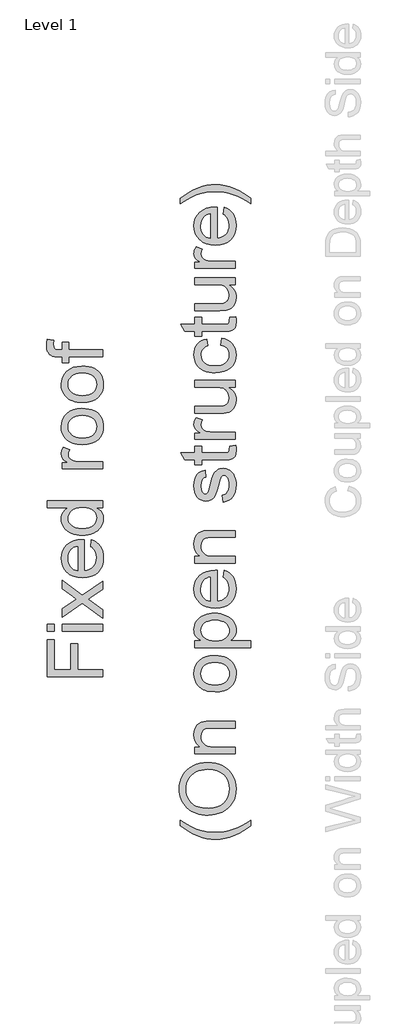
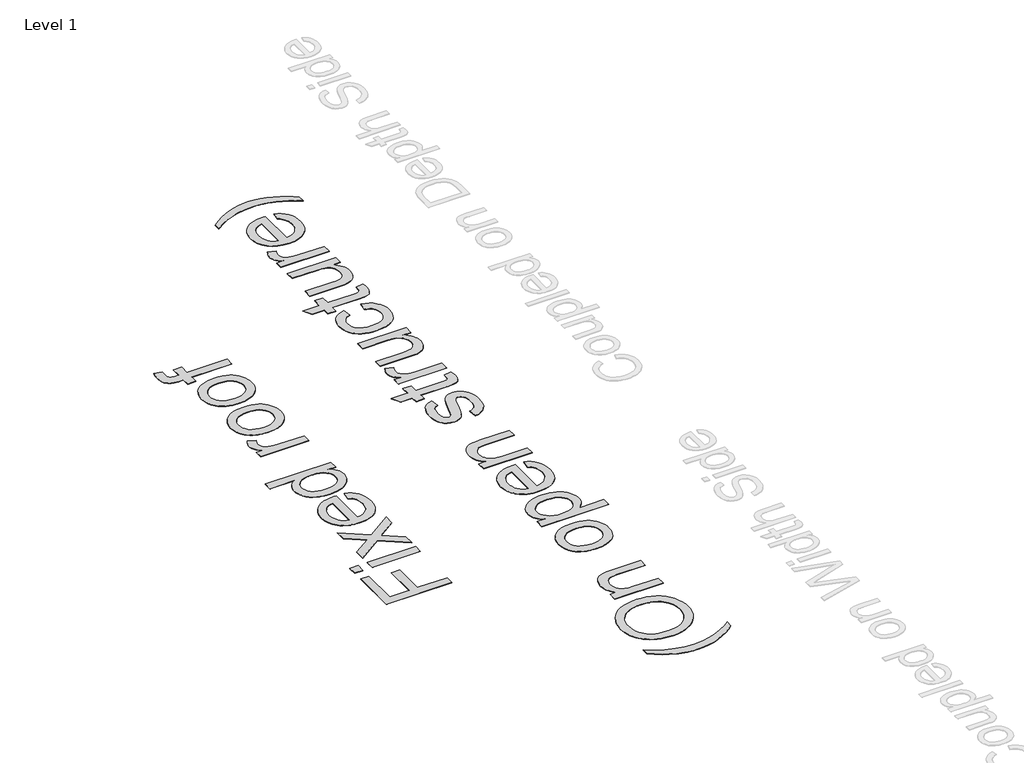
# One storey, part 68 of 80: 1 proxy.
"""IFC4 building model written with IfcOpenShell, lengths in millimetres."""

from ifc_helpers import new_model, si_unit, origin, origin_with_axes, place, context, project, spatial, polyline, outline, extrude, element, save

model = new_model("IFC4")

# Units and contexts
model_context = context("Model", 3, world=origin())
ifc_project = project(units=[si_unit("LENGTHUNIT", "METRE", prefix="MILLI")], contexts=[model_context])

# Site, building, storey
site = spatial("IfcSite", under=ifc_project)
building = spatial("IfcBuilding", under=site)
storey = spatial("IfcBuildingStorey", under=building, Name="Level 1", Elevation=0.0)

# Proxy
placement = place(None, origin())
element("IfcBuildingElementProxy", 1, Name="800mm Arial", ObjectType="800mm Arial", at=placement, inside=storey, context=model_context, shape_type="SweptSolid", body=[
    extrude(outline(polyline([(216682.3499117, 49671.7954524), (215882.9612133, 49671.7954524), (215882.9612133, 50208.8847341), (215982.8848006, 50208.8847341), (215982.8848006, 49771.7190397), (216220.2033204, 49771.7190397), (216220.2033204, 50146.432492), (216320.1269077, 50146.432492), (216320.1269077, 49771.7190397), (216682.3499117, 49771.7190397), (216682.3499117, 49671.7954524)])), origin_with_axes(), (0.0, 0.0, 1.0), 5.0),
    extrude(outline(polyline([(215982.8848006, 50333.7892182), (215882.9612133, 50333.7892182), (215882.9612133, 50433.7128055), (215982.8848006, 50433.7128055), (215982.8848006, 50333.7892182)])), origin_with_axes(), (0.0, 0.0, 1.0), 5.0),
    extrude(outline(polyline([(216682.3499117, 50333.7892182), (216095.2988363, 50333.7892182), (216095.2988363, 50433.7128055), (216682.3499117, 50433.7128055), (216682.3499117, 50333.7892182)])), origin_with_axes(), (0.0, 0.0, 1.0), 5.0),
    extrude(outline(polyline([(216682.3499117, 50521.1459444), (216387.2630679, 50734.6545469), (216095.2988363, 50533.6363928), (216095.2988363, 50653.8569588), (216235.8163809, 50750.8530972), (216302.1718881, 50796.1309727), (216247.9165028, 50835.3587872), (216095.2988363, 50945.8211904), (216095.2988363, 51066.0417563), (216387.2630679, 50854.8751129), (216682.3499117, 51058.2352261), (216682.3499117, 50938.0146601), (216504.9465116, 50815.6472983), (216472.549411, 50793.2035238), (216682.3499117, 50641.3665103), (216682.3499117, 50521.1459444)])), origin_with_axes(), (0.0, 0.0, 1.0), 5.0),
    extrude(outline(polyline([(216507.4836339, 51556.682183), (216519.9740823, 51654.6541377), (216559.2140945, 51639.6326658), (216593.794584, 51619.3539837), (216623.7155508, 51593.8180914), (216648.9769948, 51563.0249888), (216669.0422171, 51527.2918164), (216683.3745187, 51486.9357142), (216691.9738997, 51441.9566825), (216694.8403601, 51392.3547211), (216689.8941913, 51330.3537941), (216675.0556849, 51275.1103948), (216650.324841, 51226.6245233), (216615.7016596, 51184.8961795), (216572.1497591, 51151.3402971), (216520.6327583, 51127.3718097), (216461.150657, 51112.9907172), (216393.7034554, 51108.1970197), (216323.9691843, 51113.039508), (216262.5049563, 51127.5669729), (216209.3107712, 51151.7794144), (216185.8149448, 51167.5175014), (216164.3866291, 51185.6768325), (216128.6961486, 51227.295397), (216103.2029482, 51274.6712775), (216087.907028, 51327.804474), (216082.8083879, 51386.6949867), (216087.8948303, 51443.6887564), (216103.1541574, 51495.2301526), (216128.5863692, 51541.3191754), (216164.1914658, 51581.9558247), (216209.0180263, 51615.1274795), (216262.1146297, 51638.8215186), (216323.4812762, 51653.037942), (216393.1179656, 51657.7767498), (216420.050495, 51657.1912601), (216420.050495, 51208.120607), (216459.9247878, 51213.9084173), (216494.846813, 51225.4169506), (216524.8165706, 51242.6462069), (216549.8340605, 51265.596186), (216569.5577471, 51292.998327), (216583.6460947, 51323.5840686), (216592.0991033, 51357.3534108), (216594.9167728, 51394.3063537), (216589.6961557, 51447.488341), (216574.0343043, 51492.2783084), (216562.0439618, 51511.5262845), (216546.9554025, 51528.6762557), (216528.7686265, 51543.7282219), (216507.4836339, 51556.682183)]), holes=[polyline([(216320.1269077, 51208.120607), (216320.1269077, 51557.8531625), (216291.8526309, 51552.7179294), (216267.3352469, 51544.338107), (216246.5747554, 51532.7136956), (216229.5711567, 51517.844695), (216209.0790148, 51490.5950253), (216194.4417706, 51459.5884629), (216185.659424, 51424.8250079), (216182.7319752, 51386.3046601), (216185.0678354, 51351.1691751), (216192.0754161, 51318.9489413), (216203.7547172, 51289.6439585), (216220.1057388, 51263.254227), (216240.3722232, 51241.1092962), (216263.7979128, 51224.538716), (216290.3828077, 51213.5424862), (216320.1269077, 51208.120607)])]), origin_with_axes(), (0.0, 0.0, 1.0), 5.0),
    extrude(outline(polyline([(216682.3499117, 52119.9233411), (216588.0860588, 52119.9233411), (216634.7910656, 52090.0267697), (216653.1394611, 52072.7090801), (216668.1517847, 52053.811788), (216679.8280364, 52033.3348932), (216688.1682162, 52011.2783958), (216693.1723241, 51987.6422957), (216694.8403601, 51962.4265931), (216692.4252148, 51929.4440028), (216685.1797789, 51897.8275552), (216673.1040524, 51867.5772505), (216656.1980353, 51838.6930885), (216634.9679323, 51812.0776995), (216609.9199481, 51788.6337133), (216581.0540827, 51768.36113), (216548.3703361, 51751.2599497), (216512.4907912, 51737.6839056), (216474.0375308, 51727.9867313), (216433.010555, 51722.1684268), (216389.4098637, 51720.2289919), (216346.6081221, 51722.0159555), (216305.8311992, 51727.3768462), (216267.0790951, 51736.311664), (216230.3518098, 51748.820409), (216196.7227411, 51764.8969822), (216167.2652871, 51784.5352849), (216141.9794477, 51807.735317), (216120.8652229, 51834.4970785), (216104.2153576, 51863.8752475), (216092.3225966, 51894.9245018), (216085.1869401, 51927.6448415), (216082.8083879, 51962.0362666), (216084.5099675, 51987.1879313), (216089.6147065, 52010.9246624), (216098.1226047, 52033.2464598), (216110.0336622, 52054.1533236), (216141.3329694, 52090.795225), (216180.7803426, 52119.9233411), (215882.9612133, 52119.9233411), (215882.9612133, 52219.8469284), (216682.3499117, 52219.8469284), (216682.3499117, 52119.9233411)]), holes=[polyline([(216389.0195372, 51820.1525792), (216437.4749145, 51822.9702487), (216479.4045204, 51831.4232572), (216514.8083549, 51845.5116048), (216543.686418, 51865.2352914), (216566.0996982, 51888.7890569), (216582.1091841, 51914.3676412), (216591.7148756, 51941.9710443), (216594.9167728, 51971.5992662), (216591.861248, 52001.3677616), (216582.6946738, 52028.8064957), (216567.4170502, 52053.9154684), (216546.028377, 52076.6946798), (216518.3578866, 52095.6072191), (216484.234811, 52109.1161757), (216443.6591502, 52117.2215497), (216396.6309042, 52119.9233411), (216345.0712114, 52117.1727589), (216300.8545361, 52108.9210125), (216263.9808784, 52095.1681018), (216234.4502381, 52075.9140267), (216211.8234981, 52052.6347096), (216195.6615409, 52026.8060723), (216185.9643666, 51998.4281151), (216182.7319752, 51967.5008378), (216185.8362907, 51937.2871262), (216195.1492374, 51909.6837231), (216210.6708151, 51884.6906285), (216232.4010239, 51862.3078426), (216260.8155743, 51843.8649148), (216296.3901767, 51830.691395), (216339.124831, 51822.7872832), (216389.0195372, 51820.1525792)])]), origin_with_axes(), (0.0, 0.0, 1.0), 5.0),
    extrude(outline(polyline([(216682.3499117, 52681.9935196), (216095.2988363, 52681.9935196), (216095.2988363, 52769.4266585), (216182.1464854, 52769.4266585), (216131.7943653, 52801.7261774), (216114.3760446, 52816.924516), (216102.1295503, 52831.488574), (216087.6386785, 52861.3485522), (216082.8083879, 52893.9408161), (216084.7356251, 52918.7265496), (216090.5173365, 52943.7074465), (216100.1535223, 52968.8835065), (216113.6441824, 52994.2547299), (216203.2241171, 52960.881813), (216187.8550107, 52925.7524269), (216182.7319752, 52890.6230407), (216187.6598474, 52860.7874579), (216202.4434641, 52834.123278), (216225.9606365, 52812.5821335), (216257.0891759, 52798.1156572), (216312.9058672, 52785.9667445), (216373.7968032, 52781.9171069), (216682.3499117, 52781.9171069), (216682.3499117, 52681.9935196)])), origin_with_axes(), (0.0, 0.0, 1.0), 5.0),
    extrude(outline(polyline([(216388.824374, 53031.7260751), (216312.7960879, 53037.1296578), (216278.7248525, 53043.8841361), (216247.2822223, 53053.3404058), (216218.4681971, 53065.4984668), (216192.282777, 53080.3583191), (216168.7259621, 53097.9199627), (216147.7977523, 53118.1833977), (216119.3649054, 53156.2646281), (216099.055729, 53198.2979145), (216086.8702232, 53244.2832568), (216082.8083879, 53294.220655), (216087.7545567, 53349.3481761), (216102.593063, 53399.1940916), (216127.3239069, 53443.7584014), (216161.9470884, 53483.0411056), (216205.2916279, 53515.1027693), (216256.1865458, 53538.0039577), (216314.6318423, 53551.7446707), (216380.6275172, 53556.3249084), (216434.1144472, 53554.3000896), (216481.5757116, 53548.2256333), (216523.0113105, 53538.1015393), (216558.4212438, 53523.9278078), (216589.0069854, 53505.8813055), (216615.9700091, 53484.1388989), (216639.3103148, 53458.7005882), (216659.0279025, 53429.5663733), (216674.6958527, 53397.8706407), (216685.8872457, 53364.7477768), (216692.6020815, 53330.1977816), (216694.8403601, 53294.220655), (216689.9124878, 53238.2880855), (216675.1288712, 53187.9786573), (216650.48951, 53143.2923704), (216615.9944045, 53104.2292249), (216572.2290442, 53072.5090969), (216519.778919, 53049.8518626), (216458.644029, 53036.257522), (216388.824374, 53031.7260751)]), holes=[polyline([(216388.6292107, 53131.6496624), (216437.0967857, 53134.5405181), (216479.0629847, 53143.2130853), (216514.5278077, 53157.667364), (216543.4912547, 53177.9033542), (216565.9899189, 53202.5183199), (216582.0603933, 53230.1095253), (216591.7026779, 53260.6769703), (216594.9167728, 53294.220655), (216591.6843813, 53327.5935719), (216581.987207, 53358.0390399), (216565.8252499, 53385.557059), (216543.1985098, 53410.1476293), (216513.9484168, 53430.3836195), (216477.9164005, 53444.8378982), (216435.1024612, 53453.5104654), (216385.5065986, 53456.4013211), (216338.5759343, 53453.4921688), (216297.7075286, 53444.7647119), (216262.9013816, 53430.2189505), (216234.1574933, 53409.8548844), (216211.6588291, 53385.1728314), (216195.5883547, 53357.6731088), (216185.9460701, 53327.3557166), (216182.7319752, 53294.220655), (216185.9338724, 53260.6769703), (216195.5395639, 53230.1095253), (216211.5490498, 53202.5183199), (216233.96233, 53177.9033542), (216262.8403931, 53157.667364), (216298.2442276, 53143.2130853), (216340.1738335, 53134.5405181), (216388.6292107, 53131.6496624)])]), origin_with_axes(), (0.0, 0.0, 1.0), 5.0),
    extrude(outline(polyline([(216388.824374, 53643.7580473), (216312.7960879, 53649.1616299), (216278.7248525, 53655.9161083), (216247.2822223, 53665.3723779), (216218.4681971, 53677.5304389), (216192.282777, 53692.3902912), (216168.7259621, 53709.9519349), (216147.7977523, 53730.2153699), (216119.3649054, 53768.2966003), (216099.055729, 53810.3298866), (216086.8702232, 53856.3152289), (216082.8083879, 53906.2526272), (216087.7545567, 53961.3801483), (216102.593063, 54011.2260637), (216127.3239069, 54055.7903736), (216161.9470884, 54095.0730778), (216205.2916279, 54127.1347415), (216256.1865458, 54150.0359299), (216314.6318423, 54163.7766429), (216380.6275172, 54168.3568806), (216434.1144472, 54166.3320618), (216481.5757116, 54160.2576054), (216523.0113105, 54150.1335115), (216558.4212438, 54135.95978), (216589.0069854, 54117.9132776), (216615.9700091, 54096.1708711), (216639.3103148, 54070.7325604), (216659.0279025, 54041.5983455), (216674.6958527, 54009.9026129), (216685.8872457, 53976.779749), (216692.6020815, 53942.2297537), (216694.8403601, 53906.2526272), (216689.9124878, 53850.3200577), (216675.1288712, 53800.0106295), (216650.48951, 53755.3243426), (216615.9944045, 53716.261197), (216572.2290442, 53684.541069), (216519.778919, 53661.8838347), (216458.644029, 53648.2894941), (216388.824374, 53643.7580473)]), holes=[polyline([(216388.6292107, 53743.6816346), (216437.0967857, 53746.5724903), (216479.0629847, 53755.2450575), (216514.5278077, 53769.6993362), (216543.4912547, 53789.9353263), (216565.9899189, 53814.5502921), (216582.0603933, 53842.1414974), (216591.7026779, 53872.7089425), (216594.9167728, 53906.2526272), (216591.6843813, 53939.625544), (216581.987207, 53970.071012), (216565.8252499, 53997.5890312), (216543.1985098, 54022.1796015), (216513.9484168, 54042.4155917), (216477.9164005, 54056.8698703), (216435.1024612, 54065.5424375), (216385.5065986, 54068.4332933), (216338.5759343, 54065.524141), (216297.7075286, 54056.7966841), (216262.9013816, 54042.2509227), (216234.1574933, 54021.8868566), (216211.6588291, 53997.2048035), (216195.5883547, 53969.7050809), (216185.9460701, 53939.3876888), (216182.7319752, 53906.2526272), (216185.9338724, 53872.7089425), (216195.5395639, 53842.1414974), (216211.5490498, 53814.5502921), (216233.96233, 53789.9353263), (216262.8403931, 53769.6993362), (216298.2442276, 53755.2450575), (216340.1738335, 53746.5724903), (216388.6292107, 53743.6816346)])]), origin_with_axes(), (0.0, 0.0, 1.0), 5.0),
    extrude(outline(polyline([(216682.3499117, 54305.7518131), (216195.2224236, 54305.7518131), (216195.2224236, 54218.3186742), (216095.2988363, 54218.3186742), (216095.2988363, 54305.7518131), (216036.1643696, 54305.7518131), (215987.2271831, 54308.3865171), (215952.8296591, 54316.2906289), (215935.35035, 54324.9753939), (215919.6031147, 54336.3924444), (215893.3048659, 54367.4234021), (215883.3149467, 54387.4032405), (215876.1792901, 54410.8472267), (215871.8978962, 54437.7553607), (215870.4707649, 54468.1276424), (215873.2030505, 54511.5026762), (215881.3999073, 54559.2688832), (215975.0782703, 54544.631639), (215970.3943522, 54487.0584783), (215974.5415714, 54449.0748295), (215979.7255954, 54434.9681854), (215986.983229, 54424.1183281), (215997.0707298, 54416.0495472), (216010.7443555, 54410.2861323), (216048.8499813, 54405.6754004), (216095.2988363, 54405.6754004), (216095.2988363, 54518.0894361), (216195.2224236, 54518.0894361), (216195.2224236, 54405.6754004), (216682.3499117, 54405.6754004), (216682.3499117, 54305.7518131)])), origin_with_axes(), (0.0, 0.0, 1.0), 5.0),
    extrude(outline(polyline([(218828.7142788, 47517.1931014), (218776.5203054, 47476.8552958), (218720.0571358, 47439.7620794), (218659.3247699, 47405.9134521), (218594.3232078, 47375.309414), (218526.5771624, 47349.9503883), (218457.6113467, 47331.8367986), (218387.4257606, 47320.9686448), (218316.0204042, 47317.3459268), (218253.2632195, 47320.053817), (218191.8477823, 47328.1774875), (218131.7740924, 47341.7169385), (218073.0421499, 47360.6721697), (218005.686431, 47389.4831455), (217938.4770846, 47425.173626), (217871.4141106, 47467.7436113), (217804.4975091, 47517.1931014), (217804.4975091, 47592.1357919), (217899.4932241, 47533.3428609), (217962.77491, 47498.652592), (218037.9127637, 47466.7433996), (218116.1732296, 47442.4455742), (218216.1456077, 47423.5635291), (218316.6058939, 47417.2695141), (218380.662134, 47420.0017997), (218444.7061764, 47428.1986565), (218508.738021, 47441.8600844), (218572.757668, 47460.9860835), (218636.7651173, 47485.5766539), (218700.7603688, 47515.6317953), (218764.7434227, 47551.151508), (218828.7142788, 47592.1357919), (218828.7142788, 47517.1931014)])), origin_with_axes(), (0.0, 0.0, 1.0), 5.0),
    extrude(outline(polyline([(218214.7306741, 47667.0784823), (218166.5040038, 47668.7434689), (218120.9669271, 47673.7384285), (218078.119444, 47682.0633611), (218037.9615546, 47693.7182668), (218000.4932588, 47708.7031456), (217965.7145566, 47727.0179975), (217933.625448, 47748.6628224), (217904.2259331, 47773.6376203), (217877.9246349, 47801.2440729), (217855.1301764, 47830.7838614), (217835.8425577, 47862.2569859), (217820.0617788, 47895.6634464), (217807.7878396, 47931.003243), (217799.0207402, 47968.2763755), (217793.7604805, 48007.4828441), (217792.0070606, 48048.6226487), (217795.3004406, 48102.4023235), (217805.1805805, 48153.4741082), (217821.6474802, 48201.8380027), (217844.7011399, 48247.494007), (217873.6462903, 48289.1613622), (217907.7876625, 48325.5593095), (217947.1252564, 48356.6878489), (217991.659072, 48382.5469804), (218040.3766999, 48402.8683545), (218092.2657307, 48417.3836217), (218147.3261644, 48426.092782), (218205.558001, 48428.9958354), (218264.558293, 48425.9403107), (218320.3627866, 48416.7737365), (218372.9714819, 48401.4961128), (218422.3843789, 48380.1074397), (218467.2963233, 48353.1139218), (218506.4021608, 48321.0217638), (218539.7018914, 48283.8309658), (218567.1955152, 48241.5415276), (218588.7122642, 48195.818436), (218604.0813707, 48148.3266773), (218613.3028345, 48099.0662516), (218616.3766558, 48048.0371589), (218612.9795954, 47993.3182609), (218602.7884141, 47941.5756025), (218585.8031119, 47892.8091838), (218562.0236889, 47847.0190048), (218532.3710716, 47805.4004403), (218497.7661867, 47769.1488654), (218458.2090342, 47738.2642801), (218413.699614, 47712.7466843), (218366.0248898, 47692.766846), (218316.971825, 47678.4955328), (218266.5404198, 47669.932745), (218214.7306741, 47667.0784823)]), holes=[polyline([(218215.7064904, 47767.0020696), (218281.9522182, 47771.9970292), (218340.7573469, 47786.981908), (218392.1218765, 47811.956706), (218436.0458069, 47846.9214231), (218471.2239838, 47889.4243211), (218496.3512531, 47937.0136614), (218511.4276147, 47989.6894441), (218516.4530685, 48047.4516691), (218511.3788238, 48106.2019082), (218496.1560898, 48159.4997737), (218470.7848665, 48207.3452658), (218435.2651538, 48249.7383844), (218413.9039255, 48268.3322587), (218390.414198, 48284.4469498), (218337.049245, 48309.2387822), (218275.170295, 48324.1138817), (218204.777348, 48329.0722481), (218159.0481575, 48326.9498477), (218116.319602, 48320.5826465), (218076.5916816, 48309.9706444), (218039.8643963, 48295.1138415), (218006.6195553, 48276.1769068), (217977.338968, 48253.3245092), (217952.0226344, 48226.5566489), (217930.6705543, 48195.8733256), (217913.7218453, 48162.2259605), (217901.6156245, 48126.5659742), (217894.3518921, 48088.8933669), (217891.9306479, 48049.2081384), (217896.5962695, 47993.4524356), (217910.5931343, 47941.7219749), (217933.9212423, 47894.0167565), (217966.5805935, 47850.3367801), (217986.8028613, 47830.8052073), (218010.1446917, 47813.8778443), (218036.6060848, 47799.5546909), (218066.1870405, 47787.8357473), (218098.887559, 47778.7210133), (218134.7076401, 47772.210489), (218215.7064904, 47767.0020696)])]), origin_with_axes(), (0.0, 0.0, 1.0), 5.0),
    extrude(outline(polyline([(218603.8862074, 48553.9003196), (218016.8351321, 48553.9003196), (218016.8351321, 48653.8239068), (218098.8036998, 48653.8239068), (218076.6648679, 48670.3091032), (218057.4778802, 48688.5385711), (218041.2427368, 48708.5123106), (218027.9594377, 48730.2303217), (218017.6279828, 48753.6926045), (218010.2483721, 48778.8991588), (218004.3446836, 48834.5450823), (218009.101788, 48883.7994091), (218023.3731011, 48928.9065168), (218045.3777583, 48966.5242345), (218073.3348948, 48993.3103914), (218107.1713244, 49011.4849697), (218146.8138608, 49023.2679513), (218184.7243234, 49027.2200072), (218243.4196728, 49028.5373592), (218603.8862074, 49028.5373592), (218603.8862074, 48928.6137719), (218256.8859375, 48928.6137719), (218205.2164653, 48925.7351139), (218168.4769823, 48917.0991398), (218142.1543381, 48901.168939), (218121.7353824, 48876.4076008), (218108.6350488, 48844.6691762), (218104.2682709, 48807.8077162), (218106.7200093, 48777.4659287), (218114.0752246, 48749.2831347), (218126.3339166, 48723.2593342), (218143.4960855, 48699.3945272), (218167.5133637, 48679.4573808), (218200.3373839, 48665.2165619), (218241.968146, 48656.6720706), (218292.4056501, 48653.8239068), (218603.8862074, 48653.8239068), (218603.8862074, 48553.9003196)])), origin_with_axes(), (0.0, 0.0, 1.0), 5.0),
    extrude(outline(polyline([(218310.3606697, 49453.2126052), (218234.3323836, 49458.6161879), (218200.2611483, 49465.3706662), (218168.818518, 49474.8269358), (218140.0044928, 49486.9849968), (218113.8190728, 49501.8448492), (218090.2622579, 49519.4064928), (218069.334048, 49539.6699278), (218040.9012011, 49577.7511582), (218020.5920247, 49619.7844446), (218008.4065189, 49665.7697869), (218004.3446836, 49715.7071851), (218009.2908524, 49770.8347062), (218024.1293588, 49820.6806216), (218048.8602027, 49865.2449315), (218083.4833841, 49904.5276357), (218126.8279236, 49936.5892994), (218177.7228416, 49959.4904878), (218236.168138, 49973.2312008), (218302.163813, 49977.8114385), (218355.6507429, 49975.7866197), (218403.1120073, 49969.7121633), (218444.5476062, 49959.5880694), (218479.9575396, 49945.4143379), (218510.5432812, 49927.3678355), (218537.5063048, 49905.625429), (218560.8466105, 49880.1871183), (218580.5641983, 49851.0529034), (218596.2321484, 49819.3571708), (218607.4235414, 49786.2343069), (218614.1383772, 49751.6843116), (218616.3766558, 49715.7071851), (218611.4487836, 49659.7746156), (218596.6651669, 49609.4651874), (218572.0258058, 49564.7789005), (218537.5307002, 49525.715755), (218493.76534, 49493.9956269), (218441.3152148, 49471.3383926), (218380.1803247, 49457.7440521), (218310.3606697, 49453.2126052)]), holes=[polyline([(218310.1655065, 49553.1361925), (218358.6330814, 49556.0270482), (218400.5992804, 49564.6996154), (218436.0641034, 49579.1538941), (218465.0275504, 49599.3898843), (218487.5262146, 49624.00485), (218503.596689, 49651.5960554), (218513.2389736, 49682.1635004), (218516.4530685, 49715.7071851), (218513.2206771, 49749.0801019), (218503.5235028, 49779.5255699), (218487.3615456, 49807.0435891), (218464.7348056, 49831.6341594), (218435.4847125, 49851.8701496), (218399.4526963, 49866.3244282), (218356.6387569, 49874.9969954), (218307.0428944, 49877.8878512), (218260.11223, 49874.9786989), (218219.2438244, 49866.251242), (218184.4376774, 49851.7054806), (218155.693789, 49831.3414145), (218133.1951248, 49806.6593614), (218117.1246504, 49779.1596388), (218107.4823658, 49748.8422467), (218104.2682709, 49715.7071851), (218107.4701681, 49682.1635004), (218117.0758596, 49651.5960554), (218133.0853455, 49624.00485), (218155.4986257, 49599.3898843), (218184.3766888, 49579.1538941), (218219.7805233, 49564.6996154), (218261.7101292, 49556.0270482), (218310.1655065, 49553.1361925)])]), origin_with_axes(), (0.0, 0.0, 1.0), 5.0),
    extrude(outline(polyline([(218828.7142788, 50090.2254742), (218016.8351321, 50090.2254742), (218016.8351321, 50190.1490615), (218114.8070868, 50190.1490615), (218066.4797854, 50222.7413253), (218047.4940599, 50240.5011816), (218031.9602844, 50259.2368543), (218019.8784591, 50279.4850421), (218011.2485838, 50301.7824442), (218006.0706587, 50326.1290604), (218004.3446836, 50352.5248908), (218006.7598289, 50387.3737298), (218014.0052648, 50420.1001684), (218026.0809913, 50450.7042065), (218042.9870084, 50479.1858443), (218064.2841988, 50504.9229987), (218089.5334451, 50527.293587), (218118.7347473, 50546.2976091), (218151.8881055, 50561.935065), (218187.8591332, 50574.1449662), (218225.513444, 50582.8663242), (218264.8510379, 50588.099139), (218305.8719148, 50589.8434106), (218349.7287579, 50587.8734815), (218391.3290257, 50581.9636942), (218430.6727185, 50572.1140486), (218467.759836, 50558.3245447), (218501.620661, 50540.7842471), (218531.285476, 50519.68222), (218556.754281, 50495.0184634), (218578.0270759, 50466.7929775), (218594.8050171, 50436.3902014), (218606.7892608, 50405.1945747), (218613.9798071, 50373.2060972), (218616.3766558, 50340.4247689), (218614.7726578, 50316.8405092), (218609.9606638, 50294.4882174), (218601.9406737, 50273.3678938), (218590.7126876, 50253.4795382), (218561.6577578, 50218.3745474), (218525.8209048, 50190.1490615), (218828.7142788, 50190.1490615), (218828.7142788, 50090.2254742)]), holes=[polyline([(218315.0445879, 50190.1490615), (218363.2011214, 50192.8508528), (218404.6245226, 50200.9562268), (218439.3147914, 50214.4651835), (218467.2719279, 50233.3777228), (218488.7886769, 50256.1447364), (218504.1577834, 50281.217116), (218513.3792472, 50308.5948616), (218516.4530685, 50338.2779731), (218513.2694679, 50368.3880043), (218503.718666, 50396.2658557), (218487.8006629, 50421.9115273), (218465.5154586, 50445.3250193), (218436.5459127, 50464.8352461), (218400.574885, 50478.7711223), (218357.6023755, 50487.1326481), (218307.6283841, 50489.9198234), (218259.8865725, 50487.1997355), (218218.5363576, 50479.0394718), (218183.5777393, 50465.4390324), (218155.0107176, 50446.3984172), (218132.8108972, 50423.5765139), (218116.9538826, 50398.6322102), (218107.4396738, 50371.565506), (218104.2682709, 50342.3764015), (218107.640936, 50313.2787797), (218117.758931, 50285.9010342), (218134.6222562, 50260.2431648), (218158.2309113, 50236.3051716), (218188.2677563, 50216.1118734), (218224.4156507, 50201.688089), (218266.6745945, 50193.0338184), (218315.0445879, 50190.1490615)])]), origin_with_axes(), (0.0, 0.0, 1.0), 5.0),
    extrude(outline(polyline([(218429.0199296, 51113.2712644), (218441.510378, 51211.2432191), (218480.7503903, 51196.2217472), (218515.3308798, 51175.9430651), (218545.2518465, 51150.4071728), (218570.5132905, 51119.6140702), (218590.5785128, 51083.8808977), (218604.9108145, 51043.5247956), (218613.5101955, 50998.5457639), (218616.3766558, 50948.9438025), (218611.430487, 50886.9428755), (218596.5919807, 50831.6994762), (218571.8611368, 50783.2136047), (218537.2379553, 50741.4852609), (218493.6860549, 50707.9293785), (218442.169054, 50683.9608911), (218382.6869528, 50669.5797986), (218315.2397511, 50664.7861011), (218245.5054801, 50669.6285894), (218184.041252, 50684.1560543), (218130.8470669, 50708.3684958), (218107.3512405, 50724.1065828), (218085.9229248, 50742.2659139), (218050.2324443, 50783.8844784), (218024.7392439, 50831.2603589), (218009.4433237, 50884.3935554), (218004.3446836, 50943.284068), (218009.431126, 51000.2778378), (218024.6904531, 51051.819234), (218050.122665, 51097.9082568), (218085.7277616, 51138.5449061), (218130.554322, 51171.7165608), (218183.6509255, 51195.4105999), (218245.0175719, 51209.6270234), (218314.6542614, 51214.3658312), (218341.5867908, 51213.7803415), (218341.5867908, 50764.7096884), (218381.4610836, 50770.4974987), (218416.3831088, 50782.006032), (218446.3528663, 50799.2352882), (218471.3703563, 50822.1852674), (218491.0940429, 50849.5874084), (218505.1823905, 50880.17315), (218513.635399, 50913.9424922), (218516.4530685, 50950.895435), (218511.2324514, 51004.0774224), (218495.5706001, 51048.8673898), (218483.5802575, 51068.1153659), (218468.4916982, 51085.2653371), (218450.3049223, 51100.3173032), (218429.0199296, 51113.2712644)]), holes=[polyline([(218241.6632035, 50764.7096884), (218241.6632035, 51114.4422439), (218213.3889267, 51109.3070107), (218188.8715426, 51100.9271884), (218168.1110512, 51089.302777), (218151.1074525, 51074.4337764), (218130.6153105, 51047.1841067), (218115.9780663, 51016.1775443), (218107.1957198, 50981.4140893), (218104.2682709, 50942.8937415), (218106.6041312, 50907.7582565), (218113.6117118, 50875.5380227), (218125.291013, 50846.2330399), (218141.6420345, 50819.8433084), (218161.9085189, 50797.6983776), (218185.3342086, 50781.1277974), (218211.9191034, 50770.1315676), (218241.6632035, 50764.7096884)])]), origin_with_axes(), (0.0, 0.0, 1.0), 5.0),
    extrude(outline(polyline([(218603.8862074, 51314.2894185), (218016.8351321, 51314.2894185), (218016.8351321, 51414.2130058), (218098.8036998, 51414.2130058), (218076.6648679, 51430.6982021), (218057.4778802, 51448.92767), (218041.2427368, 51468.9014096), (218027.9594377, 51490.6194207), (218017.6279828, 51514.0817034), (218010.2483721, 51539.2882578), (218004.3446836, 51594.9341813), (218009.101788, 51644.1885081), (218023.3731011, 51689.2956158), (218045.3777583, 51726.9133334), (218073.3348948, 51753.6994904), (218107.1713244, 51771.8740686), (218146.8138608, 51783.6570502), (218184.7243234, 51787.6091062), (218243.4196728, 51788.9264582), (218603.8862074, 51788.9264582), (218603.8862074, 51689.0028709), (218256.8859375, 51689.0028709), (218205.2164653, 51686.1242128), (218168.4769823, 51677.4882387), (218142.1543381, 51661.5580379), (218121.7353824, 51636.7966998), (218108.6350488, 51605.0582752), (218104.2682709, 51568.1968151), (218106.7200093, 51537.8550276), (218114.0752246, 51509.6722336), (218126.3339166, 51483.6484331), (218143.4960855, 51459.7836262), (218167.5133637, 51439.8464798), (218200.3373839, 51425.6056609), (218241.968146, 51417.0611696), (218292.4056501, 51414.2130058), (218603.8862074, 51414.2130058), (218603.8862074, 51314.2894185)])), origin_with_axes(), (0.0, 0.0, 1.0), 5.0),
    extrude(outline(polyline([(218429.0199296, 52201.1112557), (218416.5294812, 52301.034843), (218439.3147914, 52307.0727063), (218459.2702344, 52316.794276), (218476.3958101, 52330.1995522), (218490.6915187, 52347.2885348), (218501.9621967, 52368.1100147), (218510.0126811, 52392.7127827), (218514.8429716, 52421.0968389), (218516.4530685, 52453.2621831), (218514.9771464, 52485.3909341), (218510.54938, 52513.0797211), (218503.1697694, 52536.3285441), (218492.8383145, 52555.1374029), (218480.5186339, 52569.6526701), (218467.1743463, 52580.0207181), (218452.8054515, 52586.2415469), (218437.4119497, 52588.3151565), (218423.9212896, 52586.2293492), (218411.9431447, 52579.9719273), (218401.4775151, 52569.5428908), (218392.5244007, 52554.9422397), (218379.838789, 52517.5196852), (218364.0305652, 52452.0912035), (218337.6591302, 52360.9011719), (218315.1421695, 52301.6203328), (218290.5759946, 52263.5391024), (218275.3105686, 52248.4322466), (218258.056917, 52235.947897), (218219.6585463, 52219.1882524), (218177.4544921, 52213.6017042), (218138.7389811, 52218.0904591), (218102.9997098, 52231.5567237), (218071.6516117, 52252.7807279), (218046.1096205, 52280.5427011), (218030.0330473, 52308.1339065), (218016.5423872, 52344.0683411), (218007.3941095, 52385.6137193), (218004.3446836, 52430.0377555), (218009.2481605, 52495.0759107), (218023.9585909, 52551.6244643), (218047.036646, 52597.097503), (218061.1737844, 52614.7109869), (218077.0429967, 52628.9091138), (218116.197625, 52649.9867455), (218166.720513, 52663.257847), (218179.2109614, 52563.3342597), (218162.5184041, 52558.5710565), (218147.7652817, 52550.7218342), (218134.9515942, 52539.786593), (218124.0773415, 52525.7653328), (218115.4108731, 52508.5970651), (218109.2205386, 52488.2208014), (218104.2682709, 52437.8442858), (218109.0009799, 52380.4662884), (218114.9168661, 52358.9495394), (218123.1991068, 52342.2142901), (218143.6912487, 52320.6975411), (218155.1082992, 52315.3183539), (218167.3060028, 52313.5252914), (218182.6751092, 52316.5015311), (218196.385328, 52325.4302501), (218208.6318223, 52340.7017749), (218218.4387759, 52362.7064321), (218239.7115709, 52448.7734282), (218265.8146564, 52537.0604063), (218286.7459157, 52595.4386154), (218309.238481, 52634.1785218), (218340.0254847, 52663.5505919), (218358.5537964, 52674.3516583), (218379.2045084, 52682.0667058), (218401.9776209, 52686.6957343), (218426.8731338, 52688.2387438), (218451.878426, 52686.4273848), (218476.1518561, 52680.9933079), (218499.6934239, 52671.936513), (218522.5031295, 52659.2570002), (218543.6722439, 52643.1621304), (218562.2920384, 52623.8592646), (218578.3625128, 52601.3484027), (218591.8836671, 52575.6295448), (218602.5993497, 52547.4040589), (218610.2534086, 52517.3733128), (218614.845844, 52485.5373066), (218616.3766558, 52451.8960403), (218613.4248116, 52398.1163654), (218604.5692788, 52351.1430091), (218589.8100575, 52310.9759714), (218569.1471478, 52277.6152523), (218542.6781311, 52250.3655826), (218510.5005892, 52228.5316933), (218472.614522, 52212.1135843), (218429.0199296, 52201.1112557)])), origin_with_axes(), (0.0, 0.0, 1.0), 5.0),
    extrude(outline(polyline([(218520.5514969, 53012.9904025), (218606.8136562, 53025.4808509), (218613.9859059, 52985.9115007), (218616.3766558, 52950.7333237), (218612.2294366, 52902.7719534), (218599.787779, 52867.0082867), (218580.6129891, 52841.734645), (218556.2663728, 52825.2433498), (218514.4526451, 52816.1682584), (218442.8765208, 52813.1432279), (218116.7587193, 52813.1432279), (218116.7587193, 52738.2005374), (218016.8351321, 52738.2005374), (218016.8351321, 52813.1432279), (217874.1707916, 52813.1432279), (217815.4266514, 52913.0668152), (218016.8351321, 52913.0668152), (218016.8351321, 53012.9904025), (218116.7587193, 53012.9904025), (218116.7587193, 52913.0668152), (218439.949072, 52913.0668152), (218472.8340807, 52914.3841672), (218491.4721717, 52918.3362231), (218501.7914289, 52925.2401233), (218509.7199362, 52935.4130081), (218514.7697854, 52949.8306936), (218516.4530685, 52969.4689963), (218520.5514969, 53012.9904025)])), origin_with_axes(), (0.0, 0.0, 1.0), 5.0),
    extrude(outline(polyline([(218603.8862074, 53112.9139898), (218016.8351321, 53112.9139898), (218016.8351321, 53200.3471287), (218103.6827812, 53200.3471287), (218053.330661, 53232.6466476), (218035.9123404, 53247.8449862), (218023.665846, 53262.4090442), (218009.1749742, 53292.2690224), (218004.3446836, 53324.8612863), (218006.2719208, 53349.6470198), (218012.0536323, 53374.6279167), (218021.6898181, 53399.8039767), (218035.1804782, 53425.1752001), (218124.7604129, 53391.8022832), (218109.3913064, 53356.6728971), (218104.2682709, 53321.5435109), (218109.1961432, 53291.7079281), (218123.9797598, 53265.0437482), (218147.4969322, 53243.5026037), (218178.6254716, 53229.0361274), (218234.442163, 53216.8872147), (218295.333099, 53212.8375771), (218603.8862074, 53212.8375771), (218603.8862074, 53112.9139898)])), origin_with_axes(), (0.0, 0.0, 1.0), 5.0),
    extrude(outline(polyline([(218603.8862074, 53862.3408945), (218502.9868038, 53862.3408945), (218529.5625504, 53845.0079578), (218552.5948641, 53826.1869012), (218572.0837449, 53805.8777249), (218588.0291928, 53784.0804287), (218600.4312079, 53760.7950126), (218609.2897901, 53736.0214768), (218614.6049394, 53709.7598211), (218616.3766558, 53682.0100455), (218611.3999928, 53633.3412085), (218596.4700037, 53588.0389376), (218574.0262292, 53550.0308934), (218546.50821, 53523.2447364), (218513.0865023, 53505.2165306), (218472.9316623, 53493.4823398), (218435.0699906, 53489.0911666), (218380.0339523, 53487.6274421), (218016.8351321, 53487.6274421), (218016.8351321, 53587.5510294), (218332.9996075, 53587.5510294), (218396.2325026, 53589.0635447), (218434.8748273, 53593.6010904), (218452.8847366, 53599.584064), (218468.8576294, 53608.1651484), (218482.7935056, 53619.3443437), (218494.6923654, 53633.1216498), (218504.212673, 53649.0823449), (218511.0128927, 53666.8117069), (218516.4530685, 53707.5764321), (218510.8909157, 53750.6831164), (218494.2044573, 53791.0087243), (218482.0738411, 53809.0552266), (218467.9306039, 53824.2596641), (218451.7747456, 53836.6220366), (218433.6062662, 53846.1423442), (218386.5963168, 53858.2912569), (218322.2656284, 53862.3408945), (218016.8351321, 53862.3408945), (218016.8351321, 53962.2644818), (218603.8862074, 53962.2644818), (218603.8862074, 53862.3408945)])), origin_with_axes(), (0.0, 0.0, 1.0), 5.0),
    extrude(outline(polyline([(218391.5485844, 54474.3728667), (218404.0390328, 54574.2964539), (218451.1892558, 54563.4283001), (218492.9115007, 54546.4368991), (218529.2057676, 54523.3222509), (218560.0720563, 54494.0843556), (218584.7053186, 54459.9551811), (218602.3005059, 54422.1666956), (218612.8576183, 54380.718899), (218616.3766558, 54335.6117913), (218611.4670801, 54279.5694425), (218596.7383531, 54229.3210028), (218572.1904748, 54184.8664723), (218537.8234451, 54146.205851), (218494.2837424, 54114.9126426), (218442.2178448, 54092.5603509), (218381.6257526, 54079.1489758), (218312.5074655, 54074.6785175), (218266.5648152, 54076.5874581), (218223.5862068, 54082.3142799), (218183.5716404, 54091.8589829), (218146.5211159, 54105.2215671), (218113.1786934, 54122.4935153), (218084.2884326, 54143.7663103), (218059.8503335, 54169.039952), (218039.8643963, 54198.3144404), (218024.324522, 54230.2663248), (218013.2246118, 54263.5721543), (218006.5646657, 54298.2319289), (218004.3446836, 54334.2456485), (218007.3941095, 54378.578202), (218016.5423872, 54418.6781523), (218031.7895166, 54454.5454996), (218053.1354977, 54486.1802437), (218080.0924225, 54513.0456857), (218112.1723828, 54534.6051267), (218149.3753786, 54550.8585666), (218191.7014098, 54561.8060055), (218204.1918582, 54461.8824182), (218180.8515525, 54454.0819868), (218160.5972658, 54443.7566308), (218143.4289981, 54430.9063501), (218129.3467494, 54415.5311448), (218118.3749151, 54398.0213414), (218110.5378905, 54378.7672664), (218105.8356758, 54357.7689198), (218104.2682709, 54335.0263016), (218107.3542899, 54301.0739938), (218116.6123469, 54270.4516591), (218132.0424419, 54243.1592974), (218153.6445748, 54219.1969089), (218181.9188516, 54199.6866821), (218217.365378, 54185.7508058), (218259.9841542, 54177.38928), (218309.77518, 54174.6021048), (218360.3163645, 54177.3282915), (218403.4291476, 54185.5068517), (218439.1135293, 54199.1377854), (218467.3695095, 54218.2210926), (218488.8435666, 54241.7077707), (218504.1821788, 54268.5488173), (218513.3853461, 54298.7442324), (218516.4530685, 54332.294016), (218514.5380291, 54359.3302258), (218508.7929107, 54384.0366743), (218499.2177134, 54406.4133615), (218485.8124373, 54426.4602872), (218468.4307097, 54443.6163572), (218446.9261584, 54457.3204771), (218421.2987833, 54467.5726469), (218391.5485844, 54474.3728667)])), origin_with_axes(), (0.0, 0.0, 1.0), 5.0),
    extrude(outline(polyline([(218520.5514969, 54874.0672158), (218606.8136562, 54886.5576642), (218613.9859059, 54846.988314), (218616.3766558, 54811.810137), (218612.2294366, 54763.8487668), (218599.787779, 54728.0851), (218580.6129891, 54702.8114583), (218556.2663728, 54686.3201631), (218514.4526451, 54677.2450717), (218442.8765208, 54674.2200412), (218116.7587193, 54674.2200412), (218116.7587193, 54599.2773508), (218016.8351321, 54599.2773508), (218016.8351321, 54674.2200412), (217874.1707916, 54674.2200412), (217815.4266514, 54774.1436285), (218016.8351321, 54774.1436285), (218016.8351321, 54874.0672158), (218116.7587193, 54874.0672158), (218116.7587193, 54774.1436285), (218439.949072, 54774.1436285), (218472.8340807, 54775.4609805), (218491.4721717, 54779.4130365), (218501.7914289, 54786.3169367), (218509.7199362, 54796.4898214), (218514.7697854, 54810.907507), (218516.4530685, 54830.5458096), (218520.5514969, 54874.0672158)])), origin_with_axes(), (0.0, 0.0, 1.0), 5.0),
    extrude(outline(polyline([(218603.8862074, 55348.7042555), (218502.9868038, 55348.7042555), (218529.5625504, 55331.3713188), (218552.5948641, 55312.5502622), (218572.0837449, 55292.2410858), (218588.0291928, 55270.4437896), (218600.4312079, 55247.1583736), (218609.2897901, 55222.3848377), (218614.6049394, 55196.123182), (218616.3766558, 55168.3734065), (218611.3999928, 55119.7045694), (218596.4700037, 55074.4022986), (218574.0262292, 55036.3942544), (218546.50821, 55009.6080974), (218513.0865023, 54991.5798916), (218472.9316623, 54979.8457008), (218435.0699906, 54975.4545275), (218380.0339523, 54973.9908031), (218016.8351321, 54973.9908031), (218016.8351321, 55073.9143904), (218332.9996075, 55073.9143904), (218396.2325026, 55075.4269056), (218434.8748273, 55079.9644514), (218452.8847366, 55085.9474249), (218468.8576294, 55094.5285094), (218482.7935056, 55105.7077047), (218494.6923654, 55119.4850108), (218504.212673, 55135.4457059), (218511.0128927, 55153.1750679), (218516.4530685, 55193.9397931), (218510.8909157, 55237.0464774), (218494.2044573, 55277.3720852), (218482.0738411, 55295.4185876), (218467.9306039, 55310.6230251), (218451.7747456, 55322.9853976), (218433.6062662, 55332.5057052), (218386.5963168, 55344.6546179), (218322.2656284, 55348.7042555), (218016.8351321, 55348.7042555), (218016.8351321, 55448.6278428), (218603.8862074, 55448.6278428), (218603.8862074, 55348.7042555)])), origin_with_axes(), (0.0, 0.0, 1.0), 5.0),
    extrude(outline(polyline([(218603.8862074, 55586.0227753), (218016.8351321, 55586.0227753), (218016.8351321, 55673.4559142), (218103.6827812, 55673.4559142), (218053.330661, 55705.7554331), (218035.9123404, 55720.9537717), (218023.665846, 55735.5178297), (218009.1749742, 55765.3778079), (218004.3446836, 55797.9700718), (218006.2719208, 55822.7558053), (218012.0536323, 55847.7367022), (218021.6898181, 55872.9127622), (218035.1804782, 55898.2839856), (218124.7604129, 55864.9110687), (218109.3913064, 55829.7816826), (218104.2682709, 55794.6522964), (218109.1961432, 55764.8167136), (218123.9797598, 55738.1525337), (218147.4969322, 55716.6113892), (218178.6254716, 55702.1449129), (218234.442163, 55689.9960001), (218295.333099, 55685.9463626), (218603.8862074, 55685.9463626), (218603.8862074, 55586.0227753)])), origin_with_axes(), (0.0, 0.0, 1.0), 5.0),
    extrude(outline(polyline([(218429.0199296, 56371.7500457), (218441.510378, 56469.7220004), (218480.7503903, 56454.7005285), (218515.3308798, 56434.4218464), (218545.2518465, 56408.8859541), (218570.5132905, 56378.0928515), (218590.5785128, 56342.359679), (218604.9108145, 56302.0035769), (218613.5101955, 56257.0245452), (218616.3766558, 56207.4225838), (218611.430487, 56145.4216567), (218596.5919807, 56090.1782575), (218571.8611368, 56041.6923859), (218537.2379553, 55999.9640422), (218493.6860549, 55966.4081598), (218442.169054, 55942.4396723), (218382.6869528, 55928.0585799), (218315.2397511, 55923.2648824), (218245.5054801, 55928.1073707), (218184.041252, 55942.6348356), (218130.8470669, 55966.8472771), (218107.3512405, 55982.5853641), (218085.9229248, 56000.7446952), (218050.2324443, 56042.3632596), (218024.7392439, 56089.7391401), (218009.4433237, 56142.8723367), (218004.3446836, 56201.7628493), (218009.431126, 56258.7566191), (218024.6904531, 56310.2980153), (218050.122665, 56356.3870381), (218085.7277616, 56397.0236874), (218130.554322, 56430.1953421), (218183.6509255, 56453.8893812), (218245.0175719, 56468.1058047), (218314.6542614, 56472.8446125), (218341.5867908, 56472.2591227), (218341.5867908, 56023.1884697), (218381.4610836, 56028.97628), (218416.3831088, 56040.4848133), (218446.3528663, 56057.7140695), (218471.3703563, 56080.6640487), (218491.0940429, 56108.0661897), (218505.1823905, 56138.6519313), (218513.635399, 56172.4212735), (218516.4530685, 56209.3742163), (218511.2324514, 56262.5562037), (218495.5706001, 56307.3461711), (218483.5802575, 56326.5941472), (218468.4916982, 56343.7441184), (218450.3049223, 56358.7960845), (218429.0199296, 56371.7500457)]), holes=[polyline([(218241.6632035, 56023.1884697), (218241.6632035, 56372.9210252), (218213.3889267, 56367.785792), (218188.8715426, 56359.4059697), (218168.1110512, 56347.7815582), (218151.1074525, 56332.9125576), (218130.6153105, 56305.662888), (218115.9780663, 56274.6563256), (218107.1957198, 56239.8928705), (218104.2682709, 56201.3725228), (218106.6041312, 56166.2370378), (218113.6117118, 56134.0168039), (218125.291013, 56104.7118212), (218141.6420345, 56078.3220896), (218161.9085189, 56056.1771589), (218185.3342086, 56039.6065786), (218211.9191034, 56028.6103489), (218241.6632035, 56023.1884697)])]), origin_with_axes(), (0.0, 0.0, 1.0), 5.0),
    extrude(outline(polyline([(218828.7142788, 56597.7490966), (218828.7142788, 56522.8064062), (218764.7434227, 56563.79069), (218700.7603688, 56599.3104027), (218636.7651173, 56629.3655442), (218572.757668, 56653.9561145), (218508.738021, 56673.0821136), (218444.7061764, 56686.7435416), (218380.662134, 56694.9403983), (218316.6058939, 56697.6726839), (218216.8774699, 56691.3786689), (218117.9296989, 56672.4966238), (218039.5228606, 56648.6379157), (217964.3362161, 56616.8750958), (217900.3714588, 56582.0384545), (217804.4975091, 56522.8064062), (217804.4975091, 56597.7490966), (217871.4141106, 56647.1985867), (217938.4770846, 56689.768572), (218005.686431, 56725.4590526), (218073.0421499, 56754.2700283), (218131.7740924, 56773.2252596), (218191.8477823, 56786.7647105), (218253.2632195, 56794.888381), (218316.0204042, 56797.5962712), (218387.4257606, 56793.9552567), (218457.6113467, 56783.0322132), (218526.5771624, 56764.8271407), (218594.3232078, 56739.3400392), (218659.3247699, 56708.6445182), (218720.0571358, 56674.8141875), (218776.5203054, 56637.849047), (218828.7142788, 56597.7490966)])), origin_with_axes(), (0.0, 0.0, 1.0), 5.0),
])

save(model, "model.ifc")
